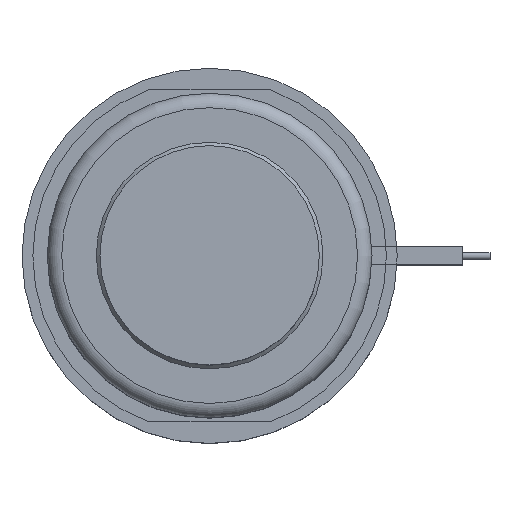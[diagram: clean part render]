
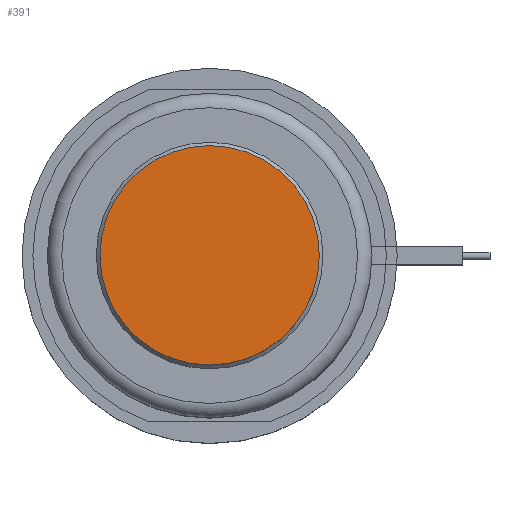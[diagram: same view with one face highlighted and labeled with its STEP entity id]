
A CAD part, top view. The second image highlights one B-rep face of the part: STEP entity #391.
In plain terms, the highlighted planar face has unit normal (0, 0, 1).
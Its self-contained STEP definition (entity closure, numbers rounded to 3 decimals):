
#289=CIRCLE('',#1402,15.2);
#391=ADVANCED_FACE('',(#511),#450,.F.);
#450=PLANE('',#1403);
#511=FACE_OUTER_BOUND('',#627,.T.);
#627=EDGE_LOOP('',(#895));
#895=ORIENTED_EDGE('',*,*,#1156,.F.);
#1021=VERTEX_POINT('',#2206);
#1156=EDGE_CURVE('',#1021,#1021,#289,.T.);
#1402=AXIS2_PLACEMENT_3D('',#2205,#1748,#1749);
#1403=AXIS2_PLACEMENT_3D('',#2207,#1750,#1751);
#1748=DIRECTION('',(0.,0.,-1.));
#1749=DIRECTION('',(-1.,0.,0.));
#1750=DIRECTION('',(0.,0.,-1.));
#1751=DIRECTION('',(-1.,0.,0.));
#2205=CARTESIAN_POINT('',(0.,0.,18.));
#2206=CARTESIAN_POINT('',(-15.2,0.,18.));
#2207=CARTESIAN_POINT('',(0.,0.,18.));
